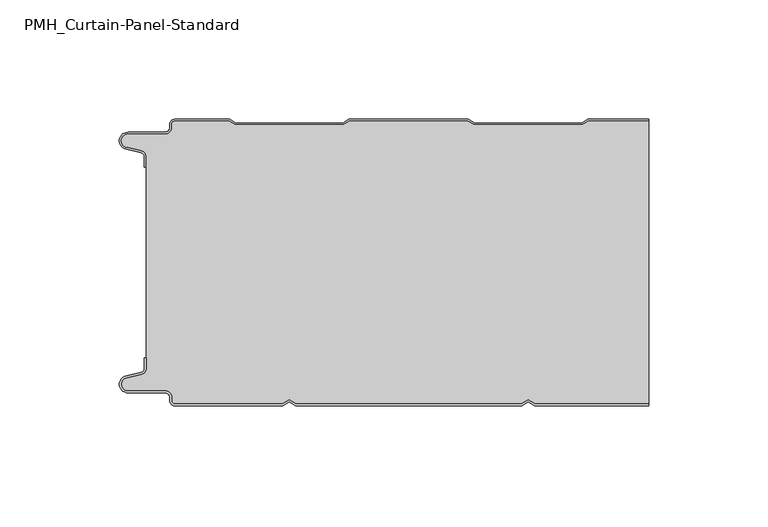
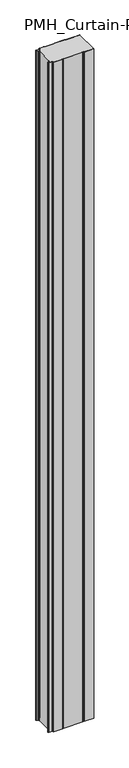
"""IFC4 building model written with IfcOpenShell, lengths in millimetres: plate geometry, PMH_Curtain-Panel-Standard : ACH_PMH_Acoustic-Sectioning-Panel_120M."""

from ifc_helpers import new_model, si_unit, point, frame_2d, origin, origin_with_axes, place, context, project, spatial, polyline, circle_curve, trimmed, segment, composite_curve, outline, extrude, source, transform, mapped, element, save


def pmh_curtain_panel_standard_ede8462a(model_context):
    return source(origin(), model_context, "Body", "SweptSolid", [
        extrude(outline(composite_curve([segment(polyline([(-100.0, 15.878557), (-100.0, 20.0), (-99.2, 20.0), (-99.2, 15.878557)]), True, "CONTINUOUS"), segment(trimmed(circle_curve(frame_2d((-102.0, 15.878557)), 2.8), [point((-99.2, 15.878557))], [point((-101.370137, 13.1503208))], False, "CARTESIAN"), True, "CONTINUOUS"), segment(polyline([(-101.370137, 13.1503208), (-107.529863, 11.728236)]), True, "CONTINUOUS"), segment(trimmed(circle_curve(frame_2d((-106.9, 9.0)), 2.8), [point((-107.529863, 11.728236))], [point((-106.9, 6.2))], True, "CARTESIAN"), True, "CONTINUOUS"), segment(polyline([(-106.9, 6.2), (-91.4, 6.2)]), True, "CONTINUOUS"), segment(trimmed(circle_curve(frame_2d((-91.4, 3.4)), 2.8), [point((-91.4, 6.2))], [point((-88.6, 3.4))], False, "CARTESIAN"), True, "CONTINUOUS"), segment(polyline([(-88.6, 3.4), (-88.6, 2.0)]), True, "CONTINUOUS"), segment(trimmed(circle_curve(frame_2d((-87.4, 2.0)), 1.2), [point((-88.6, 2.0))], [point((-87.4, 0.8))], True, "CARTESIAN"), True, "CONTINUOUS"), segment(polyline([(-87.4, 0.8), (-42.3143588, 0.8), (-39.4, 2.482606), (-36.4856412, 0.8), (57.6856412, 0.8), (60.6, 2.482606), (63.5143588, 0.8), (111.0, 0.8), (111.0, 0.0), (63.2999995, 0.0), (60.6, 1.5588455), (57.9000005, 0.0), (-36.7000005, 0.0), (-39.4, 1.5588455), (-42.0999995, 0.0), (-87.4, 0.0)]), True, "CONTINUOUS"), segment(trimmed(circle_curve(frame_2d((-87.4, 2.0)), 2.0), [point((-87.4, 0.0))], [point((-89.4, 2.0))], False, "CARTESIAN"), True, "CONTINUOUS"), segment(polyline([(-89.4, 2.0), (-89.4, 3.4)]), True, "CONTINUOUS"), segment(trimmed(circle_curve(frame_2d((-91.4, 3.4)), 2.0), [point((-89.4, 3.4))], [point((-91.4, 5.4))], True, "CARTESIAN"), True, "CONTINUOUS"), segment(polyline([(-91.4, 5.4), (-106.9, 5.4)]), True, "CONTINUOUS"), segment(trimmed(circle_curve(frame_2d((-106.9, 9.0)), 3.6), [point((-106.9, 5.4))], [point((-107.7098239, 12.5077322))], False, "CARTESIAN"), True, "CONTINUOUS"), segment(polyline([(-107.7098239, 12.5077322), (-101.5500979, 13.929817)]), True, "CONTINUOUS"), segment(trimmed(circle_curve(frame_2d((-102.0, 15.878557)), 2.0), [point((-101.5500979, 13.929817))], [point((-100.0, 15.878557))], True, "CARTESIAN"), True, "CONTINUOUS")], self_intersect=False)), origin_with_axes(), (0.0, 0.0, 1.0), 3500.0),
        extrude(outline(composite_curve([segment(trimmed(circle_curve(frame_2d((-102.0, 104.121443)), 2.8), [point((-99.2, 104.121443))], [point((-101.370137, 106.8496792))], True, "CARTESIAN"), True, "CONTINUOUS"), segment(polyline([(-101.370137, 106.8496792), (-107.529863, 108.271764)]), True, "CONTINUOUS"), segment(trimmed(circle_curve(frame_2d((-106.9, 111.0)), 2.7999998), [point((-107.529863, 108.271764))], [point((-106.9, 113.7999998))], False, "CARTESIAN"), True, "CONTINUOUS"), segment(polyline([(-106.9, 113.7999998), (-91.4, 113.7999998)]), True, "CONTINUOUS"), segment(trimmed(circle_curve(frame_2d((-91.4, 116.5999998)), 2.8), [point((-91.4, 113.7999998))], [point((-88.6, 116.5999998))], True, "CARTESIAN"), True, "CONTINUOUS"), segment(polyline([(-88.6, 116.5999998), (-88.6, 118.0)]), True, "CONTINUOUS"), segment(trimmed(circle_curve(frame_2d((-87.4, 118.0)), 1.2), [point((-88.6, 118.0))], [point((-87.4, 119.2))], False, "CARTESIAN"), True, "CONTINUOUS"), segment(polyline([(-87.4, 119.2), (-64.6143592, 119.2), (-62.0162816, 117.7), (-16.7875654, 117.7), (-14.1894878, 119.2), (35.3856408, 119.2), (37.9837184, 117.7), (83.2124346, 117.7), (85.8105122, 119.2), (111.0, 119.2), (111.0, 0.8), (63.5143588, 0.8), (60.5999999, 2.482606), (57.6856411, 0.8), (-36.4856412, 0.8), (-39.4000001, 2.482606), (-42.3143589, 0.8), (-87.4000001, 0.8)]), True, "CONTINUOUS"), segment(trimmed(circle_curve(frame_2d((-87.4000001, 2.0)), 1.2), [point((-87.4000001, 0.8))], [point((-88.6000001, 2.0))], False, "CARTESIAN"), True, "CONTINUOUS"), segment(polyline([(-88.6000001, 2.0), (-88.6000001, 3.4)]), True, "CONTINUOUS"), segment(trimmed(circle_curve(frame_2d((-91.4000001, 3.4)), 2.8), [point((-88.6000001, 3.4))], [point((-91.4000001, 6.2))], True, "CARTESIAN"), True, "CONTINUOUS"), segment(polyline([(-91.4000001, 6.2), (-106.9, 6.2)]), True, "CONTINUOUS"), segment(trimmed(circle_curve(frame_2d((-106.9, 9.0)), 2.8), [point((-106.9, 6.2))], [point((-107.5298631, 11.7282362))], False, "CARTESIAN"), True, "CONTINUOUS"), segment(polyline([(-107.5298631, 11.7282362), (-101.370137, 13.1503212)]), True, "CONTINUOUS"), segment(trimmed(circle_curve(frame_2d((-102.0, 15.8785573)), 2.8), [point((-101.370137, 13.1503212))], [point((-99.2, 15.8785573))], True, "CARTESIAN"), True, "CONTINUOUS"), segment(polyline([(-99.2, 15.8785573), (-99.2, 104.121443)]), True, "CONTINUOUS")], self_intersect=False)), origin_with_axes(), (0.0, 0.0, 1.0), 3500.0),
        extrude(outline(composite_curve([segment(polyline([(-87.4, 120.0), (-64.3999999, 120.0), (-61.8019223, 118.5), (-17.0019247, 118.5), (-14.4038471, 120.0), (35.6000001, 120.0), (38.1980777, 118.5), (82.9980753, 118.5), (85.5961529, 120.0), (111.0, 120.0), (111.0, 119.2), (85.8105122, 119.2), (83.2124346, 117.7), (37.9837184, 117.7), (35.3856408, 119.2), (-14.1894878, 119.2), (-16.7875654, 117.7), (-62.0162816, 117.7), (-64.6143592, 119.2), (-87.4, 119.2)]), True, "CONTINUOUS"), segment(trimmed(circle_curve(frame_2d((-87.4, 118.0)), 1.2), [point((-87.4, 119.2))], [point((-88.6, 118.0))], True, "CARTESIAN"), True, "CONTINUOUS"), segment(polyline([(-88.6, 118.0), (-88.6, 116.6)]), True, "CONTINUOUS"), segment(trimmed(circle_curve(frame_2d((-91.4, 116.6)), 2.8), [point((-88.6, 116.6))], [point((-91.4, 113.8))], False, "CARTESIAN"), True, "CONTINUOUS"), segment(polyline([(-91.4, 113.8), (-106.9, 113.8)]), True, "CONTINUOUS"), segment(trimmed(circle_curve(frame_2d((-106.9, 111.0)), 2.8), [point((-106.9, 113.8))], [point((-107.529863, 108.2717638))], True, "CARTESIAN"), True, "CONTINUOUS"), segment(polyline([(-107.529863, 108.2717638), (-101.370137, 106.849679)]), True, "CONTINUOUS"), segment(trimmed(circle_curve(frame_2d((-102.0, 104.121443)), 2.8), [point((-101.370137, 106.849679))], [point((-99.2, 104.121443))], False, "CARTESIAN"), True, "CONTINUOUS"), segment(polyline([(-99.2, 104.121443), (-99.2, 100.0), (-100.0, 100.0), (-100.0, 104.121443)]), True, "CONTINUOUS"), segment(trimmed(circle_curve(frame_2d((-102.0, 104.121443)), 2.0), [point((-100.0, 104.121443))], [point((-101.5500978, 106.0701831))], True, "CARTESIAN"), True, "CONTINUOUS"), segment(polyline([(-101.5500978, 106.0701831), (-107.7098239, 107.492268)]), True, "CONTINUOUS"), segment(trimmed(circle_curve(frame_2d((-106.9, 111.0)), 3.6), [point((-107.7098239, 107.492268))], [point((-106.9, 114.6))], False, "CARTESIAN"), True, "CONTINUOUS"), segment(polyline([(-106.9, 114.6), (-91.4, 114.6)]), True, "CONTINUOUS"), segment(trimmed(circle_curve(frame_2d((-91.4, 116.6)), 2.0), [point((-91.4, 114.6))], [point((-89.4, 116.6))], True, "CARTESIAN"), True, "CONTINUOUS"), segment(polyline([(-89.4, 116.6), (-89.4, 118.0)]), True, "CONTINUOUS"), segment(trimmed(circle_curve(frame_2d((-87.4, 118.0)), 2.0), [point((-89.4, 118.0))], [point((-87.4, 120.0))], False, "CARTESIAN"), True, "CONTINUOUS")], self_intersect=False)), origin_with_axes(), (0.0, 0.0, 1.0), 3500.0),
    ])


if __name__ == "__main__":
    model = new_model("IFC4")
    model_context = context("Model", 3, world=origin())
    ifc_project = project(units=[si_unit("LENGTHUNIT", "METRE", prefix="MILLI")], contexts=[model_context])
    site = spatial("IfcSite", under=ifc_project)
    building = spatial("IfcBuilding", under=site)
    placement = place(None, origin())
    pmh_curtain_panel_standard_shape = pmh_curtain_panel_standard_ede8462a(model_context)
    element("IfcPlate", 1, ObjectType="PMH_Curtain-Panel-Standard : ACH_PMH_Acoustic-Sectioning-Panel_120M", at=placement, inside=building, context=model_context, shape_type="MappedRepresentation", body=[
        mapped(pmh_curtain_panel_standard_shape, transform((0.0, 0.0, 0.0), x_axis=(1.0, 0.0, 0.0), y_axis=(0.0, 1.0, 0.0), z_axis=(0.0, 0.0, 1.0))),
    ])
    save(model, "model.ifc")
